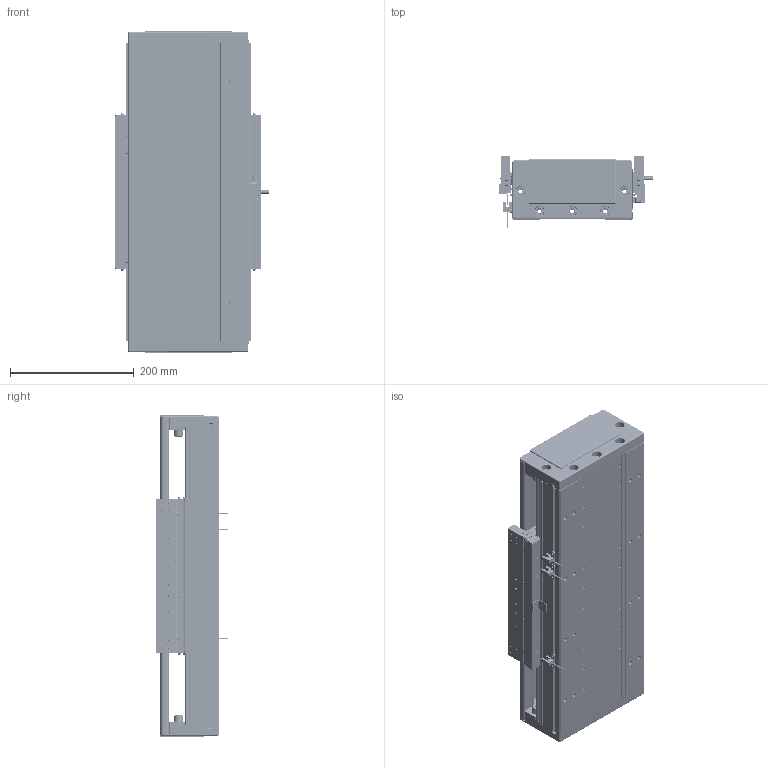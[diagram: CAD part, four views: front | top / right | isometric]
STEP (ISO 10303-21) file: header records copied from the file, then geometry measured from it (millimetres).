
FILE_DESCRIPTION (( 'STEP AP203' ), '1' );
FILE_NAME ('DA-C195-C3-T180-C010-0.2 眻盄萇儂.STEP', '2025-08-15T01:45:23', ( '' ), ( '' ), 'SwSTEP 2.0', 'SolidWorks 2019', '' );
FILE_SCHEMA (( 'CONFIG_CONTROL_DESIGN' ));
Length unit declared in the file: millimetre
Products named in the file (12): DA195-DG-H-00  端盖（压铸镂空版）; PM-T45ㄗ侂狟ㄘ; 葩璃 DA95-GT-T-00; CU195-C3賑輸-俋楷; DA95-HXJ-00 遣喳砎蝶; LMT黍杅芛; 66156-0001-003-00 裔啣; DA-C195-C3-T180-C010-0.2 眻盄萇儂; IU-CU195-L-00 菁釱(L480); MS200 棠掑喜S315-T240; DA165-GYP-00 光电感应片(默认); IU-CU195-L 菁釱絳寢
Assembly tree (20 placements, depth 3):
  DA-C195-C3-T180-C010-0.2 眻盄萇儂
    IU-CU195-L 菁釱絳寢
      IU-CU195-L-00 菁釱(L480)
      葩璃 DA95-GT-T-00  x4
    LMT黍杅芛
    MS200 棠掑喜S315-T240
    PM-T45ㄗ侂狟ㄘ  x3
    DA165-GYP-00 光电感应片(默认)
    DA195-DG-H-00  端盖（压铸镂空版）  x2
    DA95-HXJ-00 遣喳砎蝶  x4
    66156-0001-003-00 裔啣
    CU195-C3賑輸-俋楷
Bounding box: 248 x 115.6 x 520 mm (x, y, z)
Volume: 4849588.2 mm3; surface area: 1330222.9 mm2
Topology: 78 solids, 118 shells, 4905 faces, 12232 edges, 7379 vertices
Faces by surface type: cylinder 1984, plane 1587, bspline 710, cone 544, torus 44, sphere 36
Entity records: 128997 total; most frequent: CARTESIAN_POINT 38793, ORIENTED_EDGE 18550, DIRECTION 18294, EDGE_CURVE 9275, AXIS2_PLACEMENT_3D 6783, VERTEX_POINT 5809, VECTOR 4728, LINE 4728
